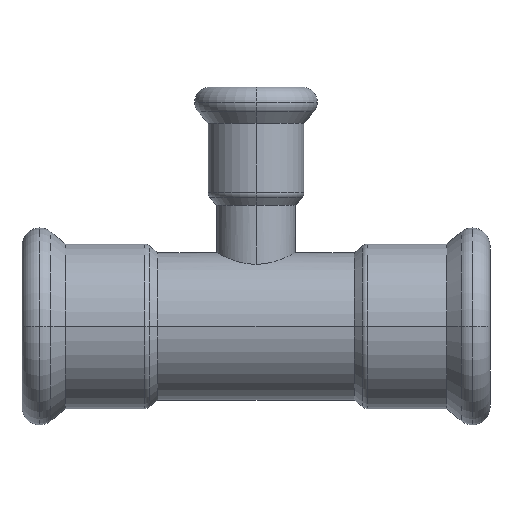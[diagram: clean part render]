
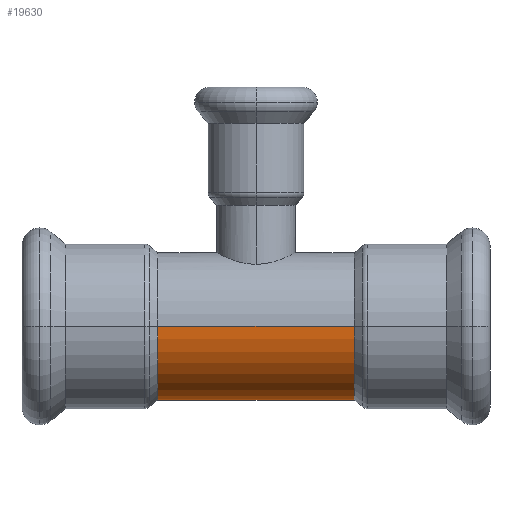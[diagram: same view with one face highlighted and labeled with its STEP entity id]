
A CAD part, left-side view. The second image highlights one B-rep face of the part: STEP entity #19630.
In plain terms, the highlighted cylindrical face has radius 14 mm (diameter 28 mm), a partial arc.
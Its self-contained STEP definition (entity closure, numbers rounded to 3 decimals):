
#160=CARTESIAN_POINT('',(-96.193,15.909,-18.7));
#170=DIRECTION('',(0.,0.,-1.));
#180=DIRECTION('',(-1.,0.,0.));
#190=AXIS2_PLACEMENT_3D('',#160,#170,#180);
#200=CYLINDRICAL_SURFACE('',#190,14.);
#19270=CARTESIAN_POINT('',(-82.193,15.909,-18.7));
#19280=DIRECTION('',(0.,0.,-1.));
#19290=VECTOR('',#19280,1.);
#19300=LINE('',#19270,#19290);
#19310=CARTESIAN_POINT('',(-82.193,15.909,18.7));
#19320=VERTEX_POINT('',#19310);
#19330=CARTESIAN_POINT('',(-82.193,15.909,-18.7));
#19340=VERTEX_POINT('',#19330);
#19350=EDGE_CURVE('',#19320,#19340,#19300,.T.);
#19360=ORIENTED_EDGE('',*,*,#19350,.F.);
#19370=CARTESIAN_POINT('',(-96.193,15.909,-18.7));
#19380=DIRECTION('',(0.,0.,-1.));
#19390=DIRECTION('',(1.,0.,0.));
#19400=AXIS2_PLACEMENT_3D('',#19370,#19380,#19390);
#19410=CIRCLE('',#19400,14.);
#19420=CARTESIAN_POINT('',(-110.193,15.909,-18.7));
#19430=VERTEX_POINT('',#19420);
#19440=EDGE_CURVE('',#19340,#19430,#19410,.T.);
#19450=ORIENTED_EDGE('',*,*,#19440,.F.);
#19460=CARTESIAN_POINT('',(-110.193,15.909,-18.7));
#19470=DIRECTION('',(0.,0.,-1.));
#19480=VECTOR('',#19470,1.);
#19490=LINE('',#19460,#19480);
#19500=CARTESIAN_POINT('',(-110.193,15.909,18.7));
#19510=VERTEX_POINT('',#19500);
#19520=EDGE_CURVE('',#19510,#19430,#19490,.T.);
#19530=ORIENTED_EDGE('',*,*,#19520,.T.);
#19540=CARTESIAN_POINT('',(-96.193,15.909,18.7));
#19550=DIRECTION('',(0.,0.,-1.));
#19560=DIRECTION('',(-1.,0.,0.));
#19570=AXIS2_PLACEMENT_3D('',#19540,#19550,#19560);
#19580=CIRCLE('',#19570,14.);
#19590=EDGE_CURVE('',#19320,#19510,#19580,.T.);
#19600=ORIENTED_EDGE('',*,*,#19590,.T.);
#19610=EDGE_LOOP('',(#19600,#19530,#19450,#19360));
#19620=FACE_OUTER_BOUND('',#19610,.T.);
#19630=ADVANCED_FACE('',(#19620),#200,.T.);
